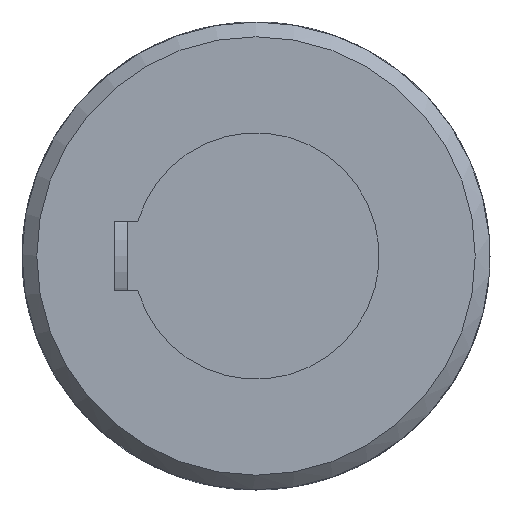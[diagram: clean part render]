
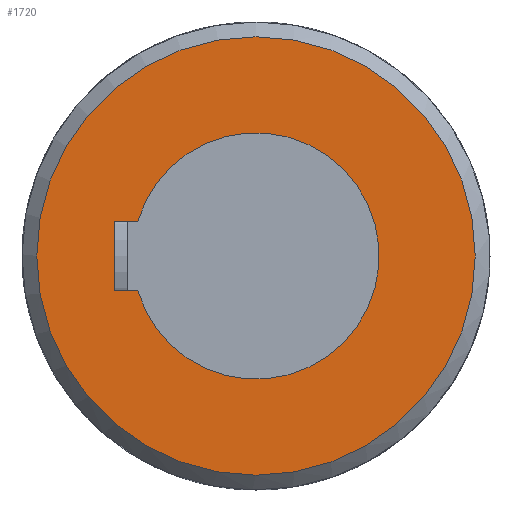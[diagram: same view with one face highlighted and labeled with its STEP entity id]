
A CAD part, front view. The second image highlights one B-rep face of the part: STEP entity #1720.
In plain terms, the highlighted planar face has unit normal (0, -1, 0).
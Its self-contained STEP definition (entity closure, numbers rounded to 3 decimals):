
#114=LINE('',#3449,#175);
#118=LINE('',#3471,#179);
#120=LINE('',#3479,#181);
#175=VECTOR('',#2267,4.8);
#179=VECTOR('',#2279,14.);
#181=VECTOR('',#2283,4.8);
#328=PLANE('',#1901);
#376=FACE_BOUND('',#608,.T.);
#465=FACE_OUTER_BOUND('',#607,.T.);
#607=EDGE_LOOP('',(#1503));
#608=EDGE_LOOP('',(#1504,#1505,#1506,#1507));
#702=CIRCLE('',#1888,25.);
#706=CIRCLE('',#1897,44.5);
#847=VERTEX_POINT('',#3446);
#848=VERTEX_POINT('',#3448);
#851=VERTEX_POINT('',#3458);
#853=VERTEX_POINT('',#3469);
#858=VERTEX_POINT('',#3528);
#1063=EDGE_CURVE('',#848,#847,#114,.T.);
#1067=EDGE_CURVE('',#851,#848,#702,.T.);
#1071=EDGE_CURVE('',#847,#853,#118,.T.);
#1074=EDGE_CURVE('',#853,#851,#120,.T.);
#1080=EDGE_CURVE('',#858,#858,#706,.T.);
#1503=ORIENTED_EDGE('',*,*,#1080,.F.);
#1504=ORIENTED_EDGE('',*,*,#1071,.T.);
#1505=ORIENTED_EDGE('',*,*,#1074,.T.);
#1506=ORIENTED_EDGE('',*,*,#1067,.T.);
#1507=ORIENTED_EDGE('',*,*,#1063,.T.);
#1720=ADVANCED_FACE('',(#465,#376),#328,.F.);
#1888=AXIS2_PLACEMENT_3D('',#3459,#2273,#2274);
#1897=AXIS2_PLACEMENT_3D('',#3529,#2296,#2297);
#1901=AXIS2_PLACEMENT_3D('',#3773,#2308,#2309);
#2267=DIRECTION('',(0.,0.,-1.));
#2273=DIRECTION('center_axis',(0.,1.,0.));
#2274=DIRECTION('ref_axis',(0.28,0.,-0.96));
#2279=DIRECTION('',(-1.,0.,0.));
#2283=DIRECTION('',(0.,0.,1.));
#2296=DIRECTION('center_axis',(0.,1.,0.));
#2297=DIRECTION('ref_axis',(1.,0.,0.));
#2308=DIRECTION('center_axis',(0.,1.,0.));
#2309=DIRECTION('ref_axis',(0.,0.,1.));
#3446=CARTESIAN_POINT('',(7.,-118.,-28.8));
#3448=CARTESIAN_POINT('',(7.,-118.,-24.));
#3449=CARTESIAN_POINT('',(7.,-118.,-12.));
#3458=CARTESIAN_POINT('',(-7.,-118.,-24.));
#3459=CARTESIAN_POINT('Origin',(0.,-118.,0.));
#3469=CARTESIAN_POINT('',(-7.,-118.,-28.8));
#3471=CARTESIAN_POINT('',(3.5,-118.,-28.8));
#3479=CARTESIAN_POINT('',(-7.,-118.,-14.4));
#3528=CARTESIAN_POINT('',(-44.5,-118.,0.));
#3529=CARTESIAN_POINT('Origin',(0.,-118.,0.));
#3773=CARTESIAN_POINT('Origin',(0.,-118.,0.));
